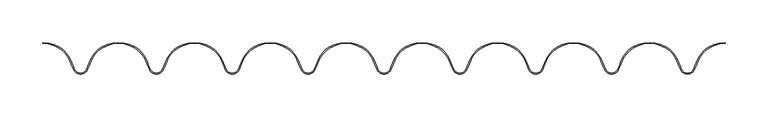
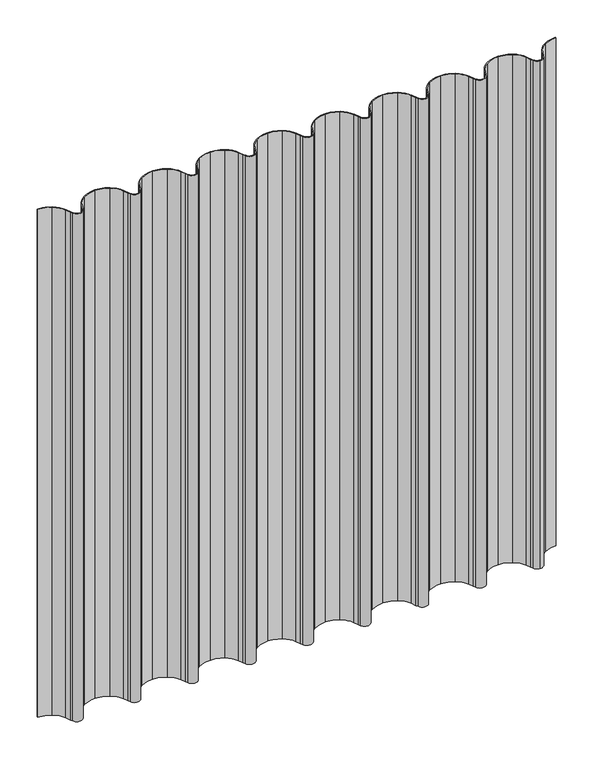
"""IFC4 building model written with IfcOpenShell, lengths in millimetres: plate geometry, Regolare Vertical 801 : Regolare Vertical 801."""

from ifc_helpers import new_model, si_unit, point, frame_2d, origin, origin_with_axes, place, context, project, spatial, polyline, circle_curve, trimmed, segment, composite_curve, outline, extrude, source, transform, mapped, element, save


def plate_f2230e5b(model_context):
    return source(origin(), model_context, "Body", "SweptSolid", [
        extrude(outline(composite_curve([segment(trimmed(circle_curve(frame_2d((397.1660556, -32.6206681)), 30.6166783), [point((381.1909507, -6.5021495))], [point((368.7389658, -21.2504634))], True, "CARTESIAN"), True, "CONTINUOUS"), segment(polyline([(368.7389658, -21.2504634), (365.8573799, -28.4448583), (364.1967551, -31.9093405)]), True, "CONTINUOUS"), segment(trimmed(circle_curve(frame_2d((356.2059563, -28.0791236)), 8.8613445), [point((364.1967551, -31.9093405))], [point((356.2059563, -36.9404682))], False, "CARTESIAN"), True, "CONTINUOUS"), segment(trimmed(circle_curve(frame_2d((356.2059563, -28.0791236)), 8.8613445), [point((356.2059563, -36.9404682))], [point((348.2151575, -31.9093405))], False, "CARTESIAN"), True, "CONTINUOUS"), segment(polyline([(348.2151575, -31.9093405), (346.5545328, -28.4448583), (343.6729469, -21.2504634)]), True, "CONTINUOUS"), segment(trimmed(circle_curve(frame_2d((315.245857, -32.6206681)), 30.6166783), [point((343.6729469, -21.2504634))], [point((331.2209619, -6.5021495))], True, "CARTESIAN"), True, "CONTINUOUS"), segment(trimmed(circle_curve(frame_2d((311.6802118, -38.4503244)), 37.4503244), [point((331.2209619, -6.5021495))], [point((311.6802118, -1.0))], True, "CARTESIAN"), True, "CONTINUOUS"), segment(trimmed(circle_curve(frame_2d((311.6802118, -38.4503244)), 37.4503244), [point((311.6802118, -1.0))], [point((292.1394616, -6.5021495))], True, "CARTESIAN"), True, "CONTINUOUS"), segment(trimmed(circle_curve(frame_2d((308.1145665, -32.6206681)), 30.6166783), [point((292.1394616, -6.5021495))], [point((279.6874767, -21.2504634))], True, "CARTESIAN"), True, "CONTINUOUS"), segment(polyline([(279.6874767, -21.2504634), (276.8058908, -28.4448583), (275.1452661, -31.9093405)]), True, "CONTINUOUS"), segment(trimmed(circle_curve(frame_2d((267.1544672, -28.0791236)), 8.8613445), [point((275.1452661, -31.9093405))], [point((259.1636684, -31.9093405))], False, "CARTESIAN"), True, "CONTINUOUS"), segment(polyline([(259.1636684, -31.9093405), (257.5030437, -28.4448583), (254.6214578, -21.2504634)]), True, "CONTINUOUS"), segment(trimmed(circle_curve(frame_2d((226.1943679, -32.6206681)), 30.6166783), [point((254.6214578, -21.2504634))], [point((242.1694728, -6.5021495))], True, "CARTESIAN"), True, "CONTINUOUS"), segment(trimmed(circle_curve(frame_2d((222.6287227, -38.4503244)), 37.4503244), [point((242.1694728, -6.5021495))], [point((222.6287227, -1.0))], True, "CARTESIAN"), True, "CONTINUOUS"), segment(trimmed(circle_curve(frame_2d((222.6287227, -38.4503244)), 37.4503244), [point((222.6287227, -1.0))], [point((203.0879726, -6.5021495))], True, "CARTESIAN"), True, "CONTINUOUS"), segment(trimmed(circle_curve(frame_2d((219.0630775, -32.6206681)), 30.6166783), [point((203.0879726, -6.5021495))], [point((190.6359876, -21.2504634))], True, "CARTESIAN"), True, "CONTINUOUS"), segment(polyline([(190.6359876, -21.2504634), (187.7544017, -28.4448583), (186.093777, -31.9093405)]), True, "CONTINUOUS"), segment(trimmed(circle_curve(frame_2d((178.1029782, -28.0791236)), 8.8613445), [point((186.093777, -31.9093405))], [point((170.1121793, -31.9093405))], False, "CARTESIAN"), True, "CONTINUOUS"), segment(polyline([(170.1121793, -31.9093405), (168.4515546, -28.4448583), (165.5699687, -21.2504634)]), True, "CONTINUOUS"), segment(trimmed(circle_curve(frame_2d((137.1428789, -32.6206681)), 30.6166783), [point((165.5699687, -21.2504634))], [point((153.1179838, -6.5021495))], True, "CARTESIAN"), True, "CONTINUOUS"), segment(trimmed(circle_curve(frame_2d((133.5772336, -38.4503244)), 37.4503244), [point((153.1179838, -6.5021495))], [point((133.5772336, -1.0))], True, "CARTESIAN"), True, "CONTINUOUS"), segment(trimmed(circle_curve(frame_2d((133.5772336, -38.4503244)), 37.4503244), [point((133.5772336, -1.0))], [point((114.0364835, -6.5021495))], True, "CARTESIAN"), True, "CONTINUOUS"), segment(trimmed(circle_curve(frame_2d((130.0115884, -32.6206681)), 30.6166783), [point((114.0364835, -6.5021495))], [point((101.5844985, -21.2504634))], True, "CARTESIAN"), True, "CONTINUOUS"), segment(polyline([(101.5844985, -21.2504634), (98.7029126, -28.4448583), (97.0422879, -31.9093405)]), True, "CONTINUOUS"), segment(trimmed(circle_curve(frame_2d((89.0514891, -28.0791236)), 8.8613445), [point((97.0422879, -31.9093405))], [point((81.0606903, -31.9093405))], False, "CARTESIAN"), True, "CONTINUOUS"), segment(polyline([(81.0606903, -31.9093405), (79.4000655, -28.4448583), (76.5184796, -21.2504634)]), True, "CONTINUOUS"), segment(trimmed(circle_curve(frame_2d((48.0913898, -32.6206681)), 30.6166783), [point((76.5184796, -21.2504634))], [point((64.0664947, -6.5021495))], True, "CARTESIAN"), True, "CONTINUOUS"), segment(trimmed(circle_curve(frame_2d((44.5257445, -38.4503244)), 37.4503244), [point((64.0664947, -6.5021495))], [point((44.5257445, -1.0))], True, "CARTESIAN"), True, "CONTINUOUS"), segment(trimmed(circle_curve(frame_2d((44.5257445, -38.4503244)), 37.4503244), [point((44.5257445, -1.0))], [point((24.9849944, -6.5021495))], True, "CARTESIAN"), True, "CONTINUOUS"), segment(trimmed(circle_curve(frame_2d((40.9600993, -32.6206681)), 30.6166783), [point((24.9849944, -6.5021495))], [point((12.5330095, -21.2504634))], True, "CARTESIAN"), True, "CONTINUOUS"), segment(polyline([(12.5330095, -21.2504634), (9.6514235, -28.4448583), (7.9907988, -31.9093405)]), True, "CONTINUOUS"), segment(trimmed(circle_curve(frame_2d((0.0, -28.0791236)), 8.8613445), [point((7.9907988, -31.9093405))], [point((-7.9907988, -31.9093405))], False, "CARTESIAN"), True, "CONTINUOUS"), segment(polyline([(-7.9907988, -31.9093405), (-9.6514235, -28.4448583), (-12.5330095, -21.2504633)]), True, "CONTINUOUS"), segment(trimmed(circle_curve(frame_2d((-40.9600993, -32.6206681)), 30.6166783), [point((-12.5330095, -21.2504633))], [point((-24.9849944, -6.5021495))], True, "CARTESIAN"), True, "CONTINUOUS"), segment(trimmed(circle_curve(frame_2d((-44.5257445, -38.4503244)), 37.4503244), [point((-24.9849944, -6.5021495))], [point((-44.5257445, -1.0))], True, "CARTESIAN"), True, "CONTINUOUS"), segment(trimmed(circle_curve(frame_2d((-44.5257445, -38.4503244)), 37.4503244), [point((-44.5257445, -1.0))], [point((-64.0664947, -6.5021495))], True, "CARTESIAN"), True, "CONTINUOUS"), segment(trimmed(circle_curve(frame_2d((-48.0913898, -32.6206681)), 30.6166783), [point((-64.0664947, -6.5021495))], [point((-76.5184796, -21.2504634))], True, "CARTESIAN"), True, "CONTINUOUS"), segment(polyline([(-76.5184796, -21.2504634), (-79.4000655, -28.4448583), (-81.0606903, -31.9093405)]), True, "CONTINUOUS"), segment(trimmed(circle_curve(frame_2d((-89.0514891, -28.0791236)), 8.8613445), [point((-81.0606903, -31.9093405))], [point((-97.0422879, -31.9093405))], False, "CARTESIAN"), True, "CONTINUOUS"), segment(polyline([(-97.0422879, -31.9093405), (-98.7029126, -28.4448583), (-101.5844985, -21.2504634)]), True, "CONTINUOUS"), segment(trimmed(circle_curve(frame_2d((-130.0115884, -32.6206681)), 30.6166783), [point((-101.5844985, -21.2504634))], [point((-114.0364835, -6.5021495))], True, "CARTESIAN"), True, "CONTINUOUS"), segment(trimmed(circle_curve(frame_2d((-133.5772336, -38.4503244)), 37.4503244), [point((-114.0364835, -6.5021495))], [point((-133.5772336, -1.0))], True, "CARTESIAN"), True, "CONTINUOUS"), segment(trimmed(circle_curve(frame_2d((-133.5772336, -38.4503244)), 37.4503244), [point((-133.5772336, -1.0))], [point((-153.1179838, -6.5021495))], True, "CARTESIAN"), True, "CONTINUOUS"), segment(trimmed(circle_curve(frame_2d((-137.1428789, -32.6206681)), 30.6166783), [point((-153.1179838, -6.5021495))], [point((-165.5699687, -21.2504634))], True, "CARTESIAN"), True, "CONTINUOUS"), segment(polyline([(-165.5699687, -21.2504634), (-168.4515546, -28.4448583), (-170.1121793, -31.9093405)]), True, "CONTINUOUS"), segment(trimmed(circle_curve(frame_2d((-178.1029782, -28.0791236)), 8.8613445), [point((-170.1121793, -31.9093405))], [point((-186.093777, -31.9093405))], False, "CARTESIAN"), True, "CONTINUOUS"), segment(polyline([(-186.093777, -31.9093405), (-187.7544017, -28.4448583), (-190.6359876, -21.2504635)]), True, "CONTINUOUS"), segment(trimmed(circle_curve(frame_2d((-219.0630775, -32.6206681)), 30.6166783), [point((-190.6359876, -21.2504635))], [point((-203.0879726, -6.5021495))], True, "CARTESIAN"), True, "CONTINUOUS"), segment(trimmed(circle_curve(frame_2d((-222.6287227, -38.4503244)), 37.4503244), [point((-203.0879726, -6.5021495))], [point((-222.6287227, -1.0))], True, "CARTESIAN"), True, "CONTINUOUS"), segment(trimmed(circle_curve(frame_2d((-222.6287227, -38.4503244)), 37.4503244), [point((-222.6287227, -1.0))], [point((-242.1694728, -6.5021495))], True, "CARTESIAN"), True, "CONTINUOUS"), segment(trimmed(circle_curve(frame_2d((-226.1943679, -32.6206681)), 30.6166783), [point((-242.1694728, -6.5021495))], [point((-254.6214578, -21.2504635))], True, "CARTESIAN"), True, "CONTINUOUS"), segment(polyline([(-254.6214578, -21.2504635), (-257.5030437, -28.4448583), (-259.1636684, -31.9093405)]), True, "CONTINUOUS"), segment(trimmed(circle_curve(frame_2d((-267.1544672, -28.0791236)), 8.8613445), [point((-259.1636684, -31.9093405))], [point((-275.1452661, -31.9093405))], False, "CARTESIAN"), True, "CONTINUOUS"), segment(polyline([(-275.1452661, -31.9093405), (-276.8058908, -28.4448583), (-279.6874767, -21.2504635)]), True, "CONTINUOUS"), segment(trimmed(circle_curve(frame_2d((-308.1145665, -32.6206681)), 30.6166783), [point((-279.6874767, -21.2504635))], [point((-292.1394616, -6.5021495))], True, "CARTESIAN"), True, "CONTINUOUS"), segment(trimmed(circle_curve(frame_2d((-311.6802118, -38.4503244)), 37.4503244), [point((-292.1394616, -6.5021495))], [point((-311.6802118, -1.0))], True, "CARTESIAN"), True, "CONTINUOUS"), segment(trimmed(circle_curve(frame_2d((-311.6802118, -38.4503244)), 37.4503244), [point((-311.6802118, -1.0))], [point((-331.2209619, -6.5021495))], True, "CARTESIAN"), True, "CONTINUOUS"), segment(trimmed(circle_curve(frame_2d((-315.245857, -32.6206681)), 30.6166783), [point((-331.2209619, -6.5021495))], [point((-343.6729469, -21.2504635))], True, "CARTESIAN"), True, "CONTINUOUS"), segment(polyline([(-343.6729469, -21.2504635), (-346.5545328, -28.4448583), (-348.2151575, -31.9093405)]), True, "CONTINUOUS"), segment(trimmed(circle_curve(frame_2d((-356.2059563, -28.0791236)), 8.8613445), [point((-348.2151575, -31.9093405))], [point((-364.1967551, -31.9093405))], False, "CARTESIAN"), True, "CONTINUOUS"), segment(polyline([(-364.1967551, -31.9093405), (-365.8573799, -28.4448583), (-368.7389658, -21.2504634)]), True, "CONTINUOUS"), segment(trimmed(circle_curve(frame_2d((-397.1660556, -32.6206681)), 30.6166783), [point((-368.7389658, -21.2504634))], [point((-381.1909507, -6.5021495))], True, "CARTESIAN"), True, "CONTINUOUS"), segment(trimmed(circle_curve(frame_2d((-400.7317009, -38.4503244)), 37.4503244), [point((-381.1909507, -6.5021495))], [point((-400.7317009, -1.0))], True, "CARTESIAN"), True, "CONTINUOUS"), segment(polyline([(-400.7317009, -1.0), (-400.7317009, 0.0)]), True, "CONTINUOUS"), segment(trimmed(circle_curve(frame_2d((-400.7317009, -38.4503244)), 38.4503244), [point((-400.7317009, 0.0))], [point((-380.6691729, -5.6490681))], False, "CARTESIAN"), True, "CONTINUOUS"), segment(trimmed(circle_curve(frame_2d((-397.1660556, -32.6206681)), 31.6166783), [point((-380.6691729, -5.6490681))], [point((-367.8105713, -20.8788671))], False, "CARTESIAN"), True, "CONTINUOUS"), segment(polyline([(-367.8105713, -20.8788671), (-364.9413497, -28.0423924), (-363.294996, -31.4771017)]), True, "CONTINUOUS"), segment(trimmed(circle_curve(frame_2d((-356.2059563, -28.0791236)), 7.8613445), [point((-363.294996, -31.4771017))], [point((-349.1169167, -31.4771017))], True, "CARTESIAN"), True, "CONTINUOUS"), segment(polyline([(-349.1169167, -31.4771017), (-347.470563, -28.0423924), (-344.6013413, -20.878867)]), True, "CONTINUOUS"), segment(trimmed(circle_curve(frame_2d((-315.245857, -32.6206681)), 31.6166783), [point((-344.6013413, -20.878867))], [point((-331.7427398, -5.6490681))], False, "CARTESIAN"), True, "CONTINUOUS"), segment(trimmed(circle_curve(frame_2d((-311.6802118, -38.4503244)), 38.4503244), [point((-331.7427398, -5.6490681))], [point((-311.6802118, 0.0))], False, "CARTESIAN"), True, "CONTINUOUS"), segment(trimmed(circle_curve(frame_2d((-311.6802118, -38.4503244)), 38.4503244), [point((-311.6802118, 0.0))], [point((-291.6176838, -5.6490681))], False, "CARTESIAN"), True, "CONTINUOUS"), segment(trimmed(circle_curve(frame_2d((-308.1145665, -32.6206681)), 31.6166783), [point((-291.6176838, -5.6490681))], [point((-278.7590823, -20.878867))], False, "CARTESIAN"), True, "CONTINUOUS"), segment(polyline([(-278.7590823, -20.878867), (-275.8898606, -28.0423924), (-274.2435069, -31.4771017)]), True, "CONTINUOUS"), segment(trimmed(circle_curve(frame_2d((-267.1544672, -28.0791236)), 7.8613445), [point((-274.2435069, -31.4771017))], [point((-260.0654276, -31.4771017))], True, "CARTESIAN"), True, "CONTINUOUS"), segment(polyline([(-260.0654276, -31.4771017), (-258.4190739, -28.0423924), (-255.5498521, -20.8788668)]), True, "CONTINUOUS"), segment(trimmed(circle_curve(frame_2d((-226.1943679, -32.6206681)), 31.6166783), [point((-255.5498521, -20.8788668))], [point((-242.6912507, -5.6490681))], False, "CARTESIAN"), True, "CONTINUOUS"), segment(trimmed(circle_curve(frame_2d((-222.6287227, -38.4503244)), 38.4503244), [point((-242.6912507, -5.6490681))], [point((-222.6287227, 0.0))], False, "CARTESIAN"), True, "CONTINUOUS"), segment(trimmed(circle_curve(frame_2d((-222.6287227, -38.4503244)), 38.4503244), [point((-222.6287227, 0.0))], [point((-202.5661947, -5.6490681))], False, "CARTESIAN"), True, "CONTINUOUS"), segment(trimmed(circle_curve(frame_2d((-219.0630775, -32.6206681)), 31.6166783), [point((-202.5661947, -5.6490681))], [point((-189.7075932, -20.878867))], False, "CARTESIAN"), True, "CONTINUOUS"), segment(polyline([(-189.7075932, -20.878867), (-186.8383715, -28.0423924), (-185.1920178, -31.4771017)]), True, "CONTINUOUS"), segment(trimmed(circle_curve(frame_2d((-178.1029782, -28.0791236)), 7.8613445), [point((-185.1920178, -31.4771017))], [point((-171.0139385, -31.4771017))], True, "CARTESIAN"), True, "CONTINUOUS"), segment(polyline([(-171.0139385, -31.4771017), (-169.3675848, -28.0423924), (-166.4983631, -20.878867)]), True, "CONTINUOUS"), segment(trimmed(circle_curve(frame_2d((-137.1428789, -32.6206681)), 31.6166783), [point((-166.4983631, -20.878867))], [point((-153.6397616, -5.6490681))], False, "CARTESIAN"), True, "CONTINUOUS"), segment(trimmed(circle_curve(frame_2d((-133.5772336, -38.4503244)), 38.4503244), [point((-153.6397616, -5.6490681))], [point((-133.5772336, 0.0))], False, "CARTESIAN"), True, "CONTINUOUS"), segment(trimmed(circle_curve(frame_2d((-133.5772336, -38.4503244)), 38.4503244), [point((-133.5772336, 0.0))], [point((-113.5147056, -5.6490681))], False, "CARTESIAN"), True, "CONTINUOUS"), segment(trimmed(circle_curve(frame_2d((-130.0115884, -32.6206681)), 31.6166783), [point((-113.5147056, -5.6490681))], [point((-100.6561041, -20.878867))], False, "CARTESIAN"), True, "CONTINUOUS"), segment(polyline([(-100.6561041, -20.878867), (-97.7868824, -28.0423924), (-96.1405287, -31.4771017)]), True, "CONTINUOUS"), segment(trimmed(circle_curve(frame_2d((-89.0514891, -28.0791236)), 7.8613445), [point((-96.1405287, -31.4771017))], [point((-81.9624494, -31.4771017))], True, "CARTESIAN"), True, "CONTINUOUS"), segment(polyline([(-81.9624494, -31.4771017), (-80.3160957, -28.0423924), (-77.4468741, -20.8788671)]), True, "CONTINUOUS"), segment(trimmed(circle_curve(frame_2d((-48.0913898, -32.6206681)), 31.6166783), [point((-77.4468741, -20.8788671))], [point((-64.5882725, -5.6490681))], False, "CARTESIAN"), True, "CONTINUOUS"), segment(trimmed(circle_curve(frame_2d((-44.5257445, -38.4503244)), 38.4503244), [point((-64.5882725, -5.6490681))], [point((-44.5257445, 0.0))], False, "CARTESIAN"), True, "CONTINUOUS"), segment(trimmed(circle_curve(frame_2d((-44.5257445, -38.4503244)), 38.4503244), [point((-44.5257445, 0.0))], [point((-24.4632165, -5.6490681))], False, "CARTESIAN"), True, "CONTINUOUS"), segment(trimmed(circle_curve(frame_2d((-40.9600993, -32.6206681)), 31.6166783), [point((-24.4632165, -5.6490681))], [point((-11.6046151, -20.878867))], False, "CARTESIAN"), True, "CONTINUOUS"), segment(polyline([(-11.6046151, -20.878867), (-8.7353934, -28.0423924), (-7.0890396, -31.4771017)]), True, "CONTINUOUS"), segment(trimmed(circle_curve(frame_2d((0.0, -28.0791236)), 7.8613445), [point((-7.0890396, -31.4771017))], [point((7.0890396, -31.4771017))], True, "CARTESIAN"), True, "CONTINUOUS"), segment(polyline([(7.0890396, -31.4771017), (8.7353934, -28.0423924), (11.6046151, -20.878867)]), True, "CONTINUOUS"), segment(trimmed(circle_curve(frame_2d((40.9600993, -32.6206681)), 31.6166783), [point((11.6046151, -20.878867))], [point((24.4632165, -5.6490681))], False, "CARTESIAN"), True, "CONTINUOUS"), segment(trimmed(circle_curve(frame_2d((44.5257445, -38.4503244)), 38.4503244), [point((24.4632165, -5.6490681))], [point((44.5257445, 0.0))], False, "CARTESIAN"), True, "CONTINUOUS"), segment(trimmed(circle_curve(frame_2d((44.5257445, -38.4503244)), 38.4503244), [point((44.5257445, 0.0))], [point((64.5882725, -5.6490681))], False, "CARTESIAN"), True, "CONTINUOUS"), segment(trimmed(circle_curve(frame_2d((48.0913898, -32.6206681)), 31.6166783), [point((64.5882725, -5.6490681))], [point((77.4468741, -20.8788673))], False, "CARTESIAN"), True, "CONTINUOUS"), segment(polyline([(77.4468741, -20.8788673), (80.3160957, -28.0423924), (81.9624494, -31.4771017)]), True, "CONTINUOUS"), segment(trimmed(circle_curve(frame_2d((89.0514891, -28.0791236)), 7.8613445), [point((81.9624494, -31.4771017))], [point((96.1405287, -31.4771017))], True, "CARTESIAN"), True, "CONTINUOUS"), segment(polyline([(96.1405287, -31.4771017), (97.7868824, -28.0423924), (100.6561042, -20.8788669)]), True, "CONTINUOUS"), segment(trimmed(circle_curve(frame_2d((130.0115884, -32.6206681)), 31.6166783), [point((100.6561042, -20.8788669))], [point((113.5147056, -5.6490681))], False, "CARTESIAN"), True, "CONTINUOUS"), segment(trimmed(circle_curve(frame_2d((133.5772336, -38.4503244)), 38.4503244), [point((113.5147056, -5.6490681))], [point((133.5772336, 0.0))], False, "CARTESIAN"), True, "CONTINUOUS"), segment(trimmed(circle_curve(frame_2d((133.5772336, -38.4503244)), 38.4503244), [point((133.5772336, 0.0))], [point((153.6397616, -5.6490681))], False, "CARTESIAN"), True, "CONTINUOUS"), segment(trimmed(circle_curve(frame_2d((137.1428789, -32.6206681)), 31.6166783), [point((153.6397616, -5.6490681))], [point((166.4983631, -20.8788669))], False, "CARTESIAN"), True, "CONTINUOUS"), segment(polyline([(166.4983631, -20.8788669), (169.3675848, -28.0423924), (171.0139385, -31.4771017)]), True, "CONTINUOUS"), segment(trimmed(circle_curve(frame_2d((178.1029782, -28.0791236)), 7.8613445), [point((171.0139385, -31.4771017))], [point((185.1920178, -31.4771017))], True, "CARTESIAN"), True, "CONTINUOUS"), segment(polyline([(185.1920178, -31.4771017), (186.8383715, -28.0423924), (189.7075932, -20.878867)]), True, "CONTINUOUS"), segment(trimmed(circle_curve(frame_2d((219.0630775, -32.6206681)), 31.6166783), [point((189.7075932, -20.878867))], [point((202.5661947, -5.6490681))], False, "CARTESIAN"), True, "CONTINUOUS"), segment(trimmed(circle_curve(frame_2d((222.6287227, -38.4503244)), 38.4503244), [point((202.5661947, -5.6490681))], [point((222.6287227, 0.0))], False, "CARTESIAN"), True, "CONTINUOUS"), segment(trimmed(circle_curve(frame_2d((222.6287227, -38.4503244)), 38.4503244), [point((222.6287227, 0.0))], [point((242.6912507, -5.6490681))], False, "CARTESIAN"), True, "CONTINUOUS"), segment(trimmed(circle_curve(frame_2d((226.1943679, -32.6206681)), 31.6166783), [point((242.6912507, -5.6490681))], [point((255.5498522, -20.878867))], False, "CARTESIAN"), True, "CONTINUOUS"), segment(polyline([(255.5498522, -20.878867), (258.4190739, -28.0423924), (260.0654276, -31.4771017)]), True, "CONTINUOUS"), segment(trimmed(circle_curve(frame_2d((267.1544672, -28.0791236)), 7.8613445), [point((260.0654276, -31.4771017))], [point((274.2435069, -31.4771017))], True, "CARTESIAN"), True, "CONTINUOUS"), segment(polyline([(274.2435069, -31.4771017), (275.8898606, -28.0423924), (278.7590823, -20.8788669)]), True, "CONTINUOUS"), segment(trimmed(circle_curve(frame_2d((308.1145665, -32.6206681)), 31.6166783), [point((278.7590823, -20.8788669))], [point((291.6176838, -5.6490681))], False, "CARTESIAN"), True, "CONTINUOUS"), segment(trimmed(circle_curve(frame_2d((311.6802118, -38.4503244)), 38.4503244), [point((291.6176838, -5.6490681))], [point((311.6802118, 0.0))], False, "CARTESIAN"), True, "CONTINUOUS"), segment(trimmed(circle_curve(frame_2d((311.6802118, -38.4503244)), 38.4503244), [point((311.6802118, 0.0))], [point((331.7427398, -5.6490681))], False, "CARTESIAN"), True, "CONTINUOUS"), segment(trimmed(circle_curve(frame_2d((315.245857, -32.6206681)), 31.6166783), [point((331.7427398, -5.6490681))], [point((344.6013413, -20.8788671))], False, "CARTESIAN"), True, "CONTINUOUS"), segment(polyline([(344.6013413, -20.8788671), (347.470563, -28.0423924), (349.1169167, -31.4771017)]), True, "CONTINUOUS"), segment(trimmed(circle_curve(frame_2d((356.2059563, -28.0791236)), 7.8613445), [point((349.1169167, -31.4771017))], [point((356.2059563, -35.9404682))], True, "CARTESIAN"), True, "CONTINUOUS"), segment(trimmed(circle_curve(frame_2d((356.2059563, -28.0791236)), 7.8613445), [point((356.2059563, -35.9404682))], [point((363.294996, -31.4771017))], True, "CARTESIAN"), True, "CONTINUOUS"), segment(polyline([(363.294996, -31.4771017), (364.9413497, -28.0423924), (367.8105714, -20.878867)]), True, "CONTINUOUS"), segment(trimmed(circle_curve(frame_2d((397.1660556, -32.6206681)), 31.6166783), [point((367.8105714, -20.878867))], [point((380.6691729, -5.6490681))], False, "CARTESIAN"), True, "CONTINUOUS"), segment(trimmed(circle_curve(frame_2d((400.7317009, -38.4503244)), 38.4503244), [point((380.6691729, -5.6490681))], [point((400.7317009, 0.0))], False, "CARTESIAN"), True, "CONTINUOUS"), segment(polyline([(400.7317009, 0.0), (400.7317009, -1.0)]), True, "CONTINUOUS"), segment(trimmed(circle_curve(frame_2d((400.7317009, -38.4503244)), 37.4503244), [point((400.7317009, -1.0))], [point((381.1909507, -6.5021495))], True, "CARTESIAN"), True, "CONTINUOUS")], self_intersect=False)), origin_with_axes(), (0.0, 0.0, 1.0), 829.9248737),
    ])


if __name__ == "__main__":
    model = new_model("IFC4")
    model_context = context("Model", 3, world=origin())
    ifc_project = project(units=[si_unit("LENGTHUNIT", "METRE", prefix="MILLI")], contexts=[model_context])
    site = spatial("IfcSite", under=ifc_project)
    building = spatial("IfcBuilding", under=site)
    placement = place(None, origin())
    plate_shape = plate_f2230e5b(model_context)
    element("IfcPlate", 1, ObjectType="Regolare Vertical 801 : Regolare Vertical 801", at=placement, inside=building, context=model_context, shape_type="MappedRepresentation", body=[
        mapped(plate_shape, transform((0.0, 0.0, 0.0), x_axis=(1.0, 0.0, 0.0), y_axis=(0.0, 1.0, 0.0), z_axis=(0.0, 0.0, 1.0))),
    ])
    save(model, "model.ifc")
